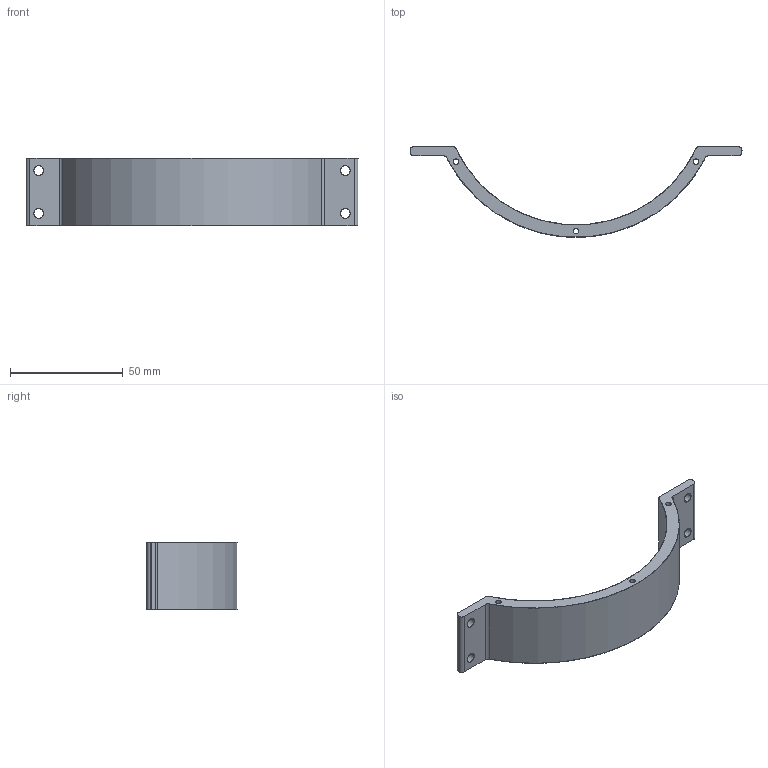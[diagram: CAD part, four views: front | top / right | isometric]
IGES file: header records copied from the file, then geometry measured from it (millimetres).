
Start section: SolidWorks IGES file using analytic representation for surfaces
Global section: file name: C:\Users\Achilles\Dropbox\BR-Engineering\PROJECTS\BROV2\MODELS\DEVELOPMENT\ANDREW EDITS\VBROV-M-CRADLE-EXTRUSION-R1\VBROV-M-CRADLE-EXTRUSION-R1.IGS; native system: SolidWorks 2016; preprocessor: SolidWorks 2016; author: Achilles; date: 190522.162646; units: millimetre
Bounding box: 147.22 x 40.24 x 30 mm (x, y, z)
Surface area: 13230 mm2 (no closed solid volume)
Topology: 0 solids, 0 shells, 32 faces, 804 edges, 804 vertices
Faces by surface type: revolution 24, bspline 8
